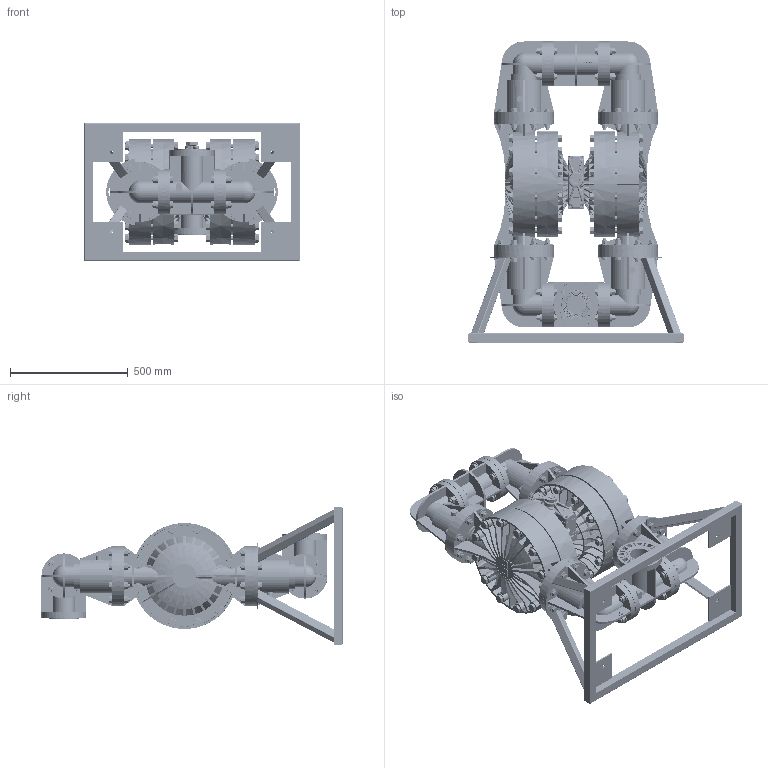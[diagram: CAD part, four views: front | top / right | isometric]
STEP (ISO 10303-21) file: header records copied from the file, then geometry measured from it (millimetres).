
FILE_DESCRIPTION (( 'STEP AP203' ), '1' );
FILE_NAME ('PS1500_ADV_POLY_ANSI.STEP', '2022-07-05T04:18:48', ( '' ), ( '' ), 'SwSTEP 2.0', 'SolidWorks 2019', '' );
FILE_SCHEMA (( 'CONFIG_CONTROL_DESIGN' ));
Products named in the file (1): PS1500_ADV_POLY_ANSI
Bounding box: 914.4 x 1278.87 x 584.2 mm (x, y, z)
Volume: 96596489.3 mm3; surface area: 7668129.1 mm2
Topology: 1 solids, 1 shells, 18491 faces, 46678 edges, 29031 vertices
Faces by surface type: plane 10056, cylinder 2611, cone 2127, bspline 2041, torus 857, sphere 799
Entity records: 785081 total; most frequent: CARTESIAN_POINT 358736, ORIENTED_EDGE 93230, DIRECTION 82552, EDGE_CURVE 46615, VERTEX_POINT 28993, AXIS2_PLACEMENT_3D 28073, VECTOR 26406, LINE 26406
